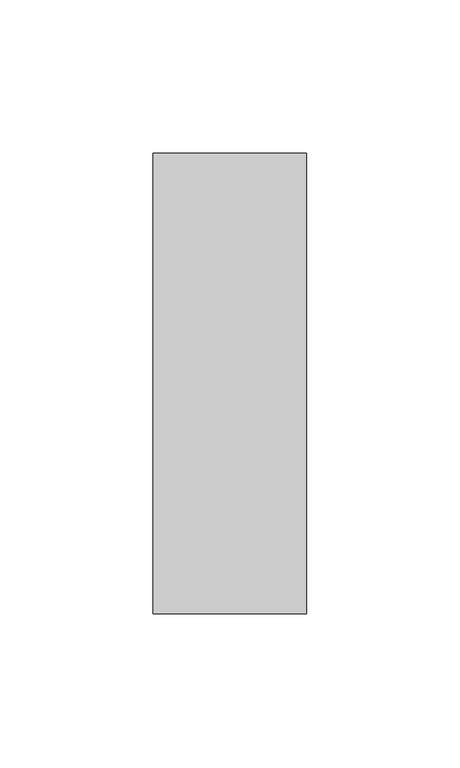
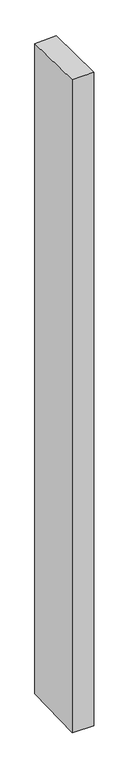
"""IFC4 building model written with IfcOpenShell, lengths in millimetres: member geometry, Прямоугольный импост : 50 x 150 мм."""

from ifc_helpers import new_model, si_unit, origin, place, context, project, spatial, faceted_brep, source, transform, mapped, element, save


def member_86b32fa0(model_context):
    return source(origin(), model_context, "Body", "Brep", [
        faceted_brep([(-25.0, 75.0, -1.9718816), (25.0, 75.0, -0.5438258), (25.0, 75.0, -1595.5207898), (-25.0, 75.0, -1594.1447324), (-25.0, -75.0, 0.5438258), (-25.0, -75.0, -1597.9145618), (25.0, -75.0, 1.9718816), (25.0, -75.0, -1599.2906192)], [[[0, 1, 2, 3]], [[4, 0, 3, 5]], [[6, 4, 5, 7]], [[1, 6, 7, 2]], [[1, 0, 4, 6]], [[2, 7, 5, 3]]]),
    ])


if __name__ == "__main__":
    model = new_model("IFC4")
    model_context = context("Model", 3, world=origin())
    ifc_project = project(units=[si_unit("LENGTHUNIT", "METRE", prefix="MILLI")], contexts=[model_context])
    site = spatial("IfcSite", under=ifc_project)
    building = spatial("IfcBuilding", under=site)
    placement = place(None, origin())
    member_shape = member_86b32fa0(model_context)
    element("IfcMember", 1, ObjectType="Прямоугольный импост : 50 x 150 мм", at=placement, inside=building, context=model_context, shape_type="MappedRepresentation", body=[
        mapped(member_shape, transform((0.0, 0.0, 0.0), x_axis=(1.0, 0.0, 0.0), y_axis=(0.0, 1.0, 0.0), z_axis=(0.0, 0.0, 1.0))),
    ])
    save(model, "model.ifc")
